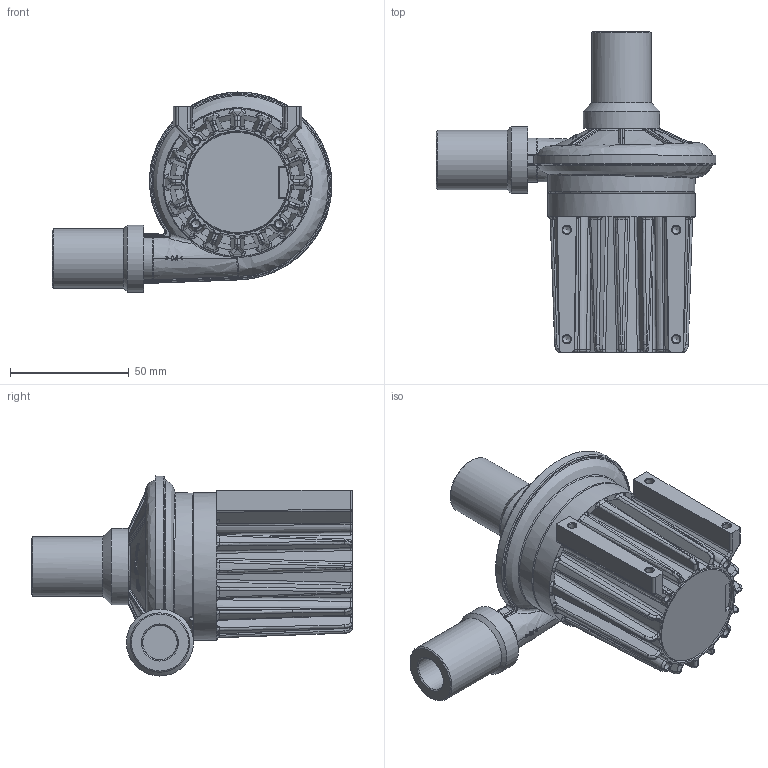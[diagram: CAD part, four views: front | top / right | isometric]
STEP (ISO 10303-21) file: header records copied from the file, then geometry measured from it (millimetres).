
FILE_DESCRIPTION(/* description */ (''),/* implementation_level */ '2;1');
FILE_NAME(/* name */ 'U85HL-024KH-53.stp',/* time_stamp */ '2024-06-10T15:48:13+02:00',/* author */ (''),/* organization */ (''),/* preprocessor_version */ 'ST-DEVELOPER v16.7',/* originating_system */ 'SIEMENS PLM Software NX 1946',/* authorisation */ '');
FILE_SCHEMA (('AUTOMOTIVE_DESIGN { 1 0 10303 214 3 1 1 1 }'));
Products named in the file (1): 021697_1-U85HL-024KH-53_simple _-_
Bounding box: 117.74 x 135 x 84.2 mm (x, y, z)
Volume: 270469.7 mm3; surface area: 57122.7 mm2
Topology: 1 solids, 1 shells, 1259 faces, 3174 edges, 1915 vertices
Faces by surface type: bspline 399, plane 351, cylinder 298, cone 128, torus 54, sphere 28, revolution 1
Full cylindrical faces by diameter (mm): 3.3 x8, 4 x1, 14.5 x1, 14.6 x1, 18.5 x1, 19 x1, 23 x1, 24 x1, 24.2 x2, 25 x2, 25.9 x1, 27 x1, 27.1 x1, 28.2 x1, 32.1 x1, 43 x1, 56.6 x1, 62 x1
Entity records: 54617 total; most frequent: CARTESIAN_POINT 29646, ORIENTED_EDGE 6064, DIRECTION 3678, EDGE_CURVE 3032, VERTEX_POINT 1876, B_SPLINE_CURVE_WITH_KNOTS 1615, AXIS2_PLACEMENT_3D 1450, EDGE_LOOP 1354
